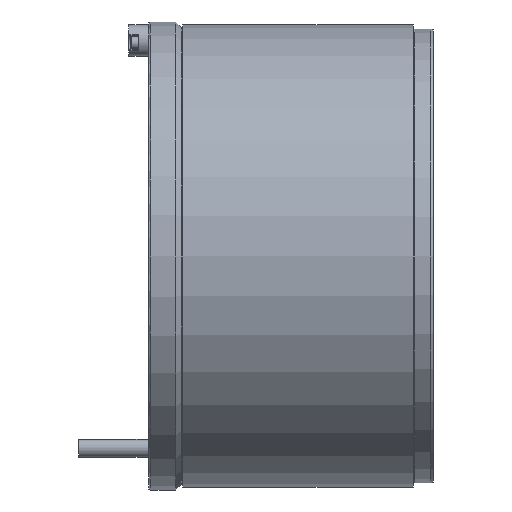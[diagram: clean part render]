
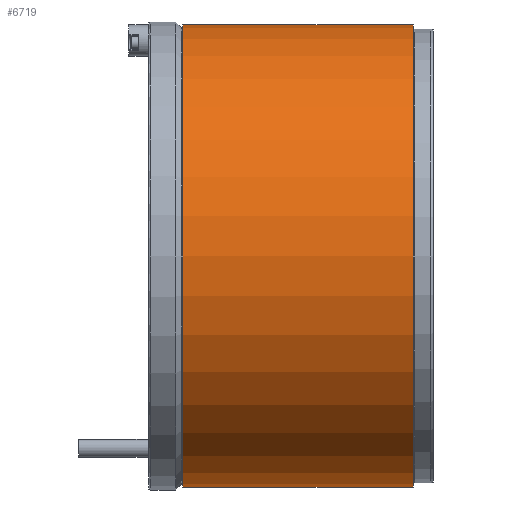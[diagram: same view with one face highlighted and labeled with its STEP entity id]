
A CAD part, left-side view. The second image highlights one B-rep face of the part: STEP entity #6719.
In plain terms, the highlighted cylindrical face has radius 162.5 mm (diameter 325 mm), a partial arc.
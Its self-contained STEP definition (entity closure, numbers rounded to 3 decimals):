
#126 = DIRECTION ( 'NONE',  ( 0., 0., -1. ) ) ;
#538 = EDGE_CURVE ( 'NONE', #6326, #7223, #10975, .T. ) ;
#1236 = AXIS2_PLACEMENT_3D ( 'NONE', #9642, #6482, #126 ) ;
#1344 = ORIENTED_EDGE ( 'NONE', *, *, #5110, .F. ) ;
#1428 = EDGE_CURVE ( 'NONE', #3427, #7425, #12962, .T. ) ;
#1558 = EDGE_LOOP ( 'NONE', ( #1344, #5878, #12099, #7903 ) ) ;
#1643 = DIRECTION ( 'NONE',  ( 0., -1., 0. ) ) ;
#1814 = DIRECTION ( 'NONE',  ( 0., -1., 0. ) ) ;
#2043 = DIRECTION ( 'NONE',  ( 0., -1., 0. ) ) ;
#2980 = CARTESIAN_POINT ( 'NONE',  ( 0., 176., -162.5 ) ) ;
#3427 = VERTEX_POINT ( 'NONE', #7481 ) ;
#3600 = CARTESIAN_POINT ( 'NONE',  ( 0., 0., -162.5 ) ) ;
#3844 = LINE ( 'NONE', #8177, #11338 ) ;
#4041 = CARTESIAN_POINT ( 'NONE',  ( 0., 0., 0. ) ) ;
#4235 = CARTESIAN_POINT ( 'NONE',  ( 0., 176., 162.5 ) ) ;
#5110 = EDGE_CURVE ( 'NONE', #6326, #3427, #3844, .T. ) ;
#5866 = VECTOR ( 'NONE', #8776, 1000. ) ;
#5878 = ORIENTED_EDGE ( 'NONE', *, *, #538, .T. ) ;
#5905 = AXIS2_PLACEMENT_3D ( 'NONE', #11759, #2043, #11700 ) ;
#6326 = VERTEX_POINT ( 'NONE', #4235 ) ;
#6482 = DIRECTION ( 'NONE',  ( 0., -1., 0. ) ) ;
#6719 = ADVANCED_FACE ( 'NONE', ( #12815 ), #13468, .T. ) ;
#7223 = VERTEX_POINT ( 'NONE', #2980 ) ;
#7425 = VERTEX_POINT ( 'NONE', #12708 ) ;
#7481 = CARTESIAN_POINT ( 'NONE',  ( 0., 14., 162.5 ) ) ;
#7903 = ORIENTED_EDGE ( 'NONE', *, *, #1428, .F. ) ;
#8177 = CARTESIAN_POINT ( 'NONE',  ( 0., 0., 162.5 ) ) ;
#8776 = DIRECTION ( 'NONE',  ( 0., -1., 0. ) ) ;
#9642 = CARTESIAN_POINT ( 'NONE',  ( 0., 14., 0. ) ) ;
#10338 = EDGE_CURVE ( 'NONE', #7223, #7425, #11527, .T. ) ;
#10975 = CIRCLE ( 'NONE', #5905, 162.5 ) ;
#11338 = VECTOR ( 'NONE', #1814, 1000. ) ;
#11527 = LINE ( 'NONE', #3600, #5866 ) ;
#11700 = DIRECTION ( 'NONE',  ( 0., 0., -1. ) ) ;
#11759 = CARTESIAN_POINT ( 'NONE',  ( 0., 176., 0. ) ) ;
#12099 = ORIENTED_EDGE ( 'NONE', *, *, #10338, .T. ) ;
#12170 = AXIS2_PLACEMENT_3D ( 'NONE', #4041, #1643, #12569 ) ;
#12569 = DIRECTION ( 'NONE',  ( 0., 0., -1. ) ) ;
#12708 = CARTESIAN_POINT ( 'NONE',  ( 0., 14., -162.5 ) ) ;
#12815 = FACE_OUTER_BOUND ( 'NONE', #1558, .T. ) ;
#12962 = CIRCLE ( 'NONE', #1236, 162.5 ) ;
#13468 = CYLINDRICAL_SURFACE ( 'NONE', #12170, 162.5 ) ;
